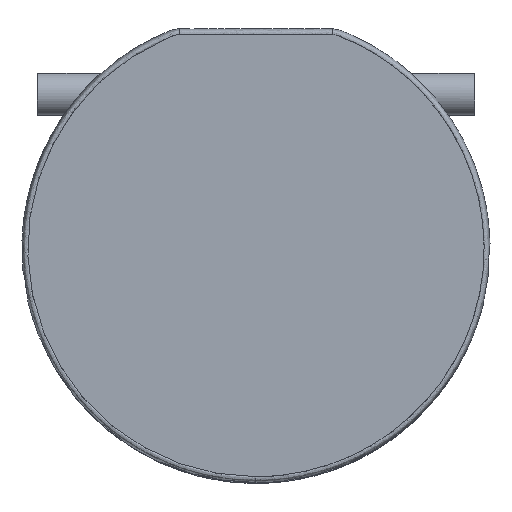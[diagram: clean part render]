
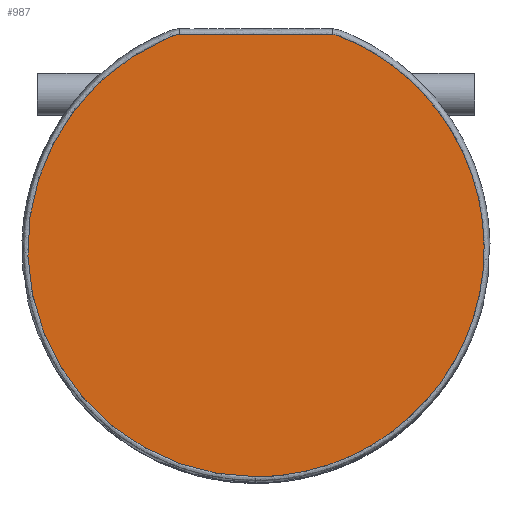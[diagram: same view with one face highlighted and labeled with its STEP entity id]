
A CAD part, top view. The second image highlights one B-rep face of the part: STEP entity #987.
In plain terms, the highlighted planar face has unit normal (0, 0, 1).
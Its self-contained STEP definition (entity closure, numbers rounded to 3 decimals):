
#987=ADVANCED_FACE('',(#1494),#7293,.T.);
#1494=FACE_OUTER_BOUND('',#2001,.T.);
#2001=EDGE_LOOP('',(#2528,#2529,#2530));
#2528=ORIENTED_EDGE('',*,*,#4860,.F.);
#2529=ORIENTED_EDGE('',*,*,#4862,.F.);
#2530=ORIENTED_EDGE('',*,*,#4856,.F.);
#4856=EDGE_CURVE('',#6541,#6544,#6025,.T.);
#4860=EDGE_CURVE('',#6546,#6541,#6029,.T.);
#4862=EDGE_CURVE('',#6544,#6546,#6031,.T.);
#6025=B_SPLINE_CURVE_WITH_KNOTS('',3,(#10188,#10189,#10190,#10191,#10192,
#10193,#10194,#10195,#10196,#10197,#10198,#10199,#10200,#10201,#10202,#10203,
#10204,#10205,#10206,#10207,#10208,#10209,#10210,#10211,#10212,#10213,#10214,
#10215,#10216,#10217,#10218,#10219,#10220,#10221,#10222),.UNSPECIFIED.,
 .F.,.F.,(4,1,1,1,1,1,1,1,1,1,1,1,1,1,1,1,1,1,1,1,1,1,1,1,1,1,1,1,1,1,1,
1,4),(-456.472,-455.787,-455.102,-454.416,
-453.729,-453.048,-452.963,-452.878,
-451.771,-450.663,-448.477,-446.291,
-428.095,-409.421,-390.768,-371.873,
-352.86,-333.858,-314.994,-296.393,
-277.79,-259.682,-238.583,-215.542,-191.57,
-166.883,-141.742,-116.436,-90.748,
-65.516,-41.51,-18.427,0.),.UNSPECIFIED.);
#6029=B_SPLINE_CURVE_WITH_KNOTS('',3,(#10293,#10294,#10295,#10296),
 .UNSPECIFIED.,.F.,.F.,(4,4),(-108.812,0.),.UNSPECIFIED.);
#6031=B_SPLINE_CURVE_WITH_KNOTS('',3,(#10328,#10329,#10330,#10331,#10332,
#10333,#10334,#10335,#10336,#10337,#10338,#10339,#10340,#10341,#10342,#10343,
#10344,#10345,#10346,#10347,#10348,#10349,#10350,#10351,#10352,#10353,#10354,
#10355,#10356,#10357,#10358),.UNSPECIFIED.,.F.,.F.,(4,1,1,1,1,1,1,1,1,1,
1,1,1,1,1,1,1,1,1,1,1,1,1,1,1,1,1,1,4),(-456.44,-434.254,
-411.005,-386.866,-362.063,-336.864,-311.564,
-286.465,-261.856,-237.992,-215.082,
-194.602,-176.805,-158.542,-139.914,
-121.034,-102.026,-83.018,-64.138,
-45.51,-27.247,-9.45,-5.083,
-3.621,-3.579,-3.409,-2.729,
-1.362,0.),.UNSPECIFIED.);
#6541=VERTEX_POINT('',#10114);
#6544=VERTEX_POINT('',#10117);
#6546=VERTEX_POINT('',#10119);
#7293=PLANE('',#7473);
#7473=AXIS2_PLACEMENT_3D('',#7802,#7637,$);
#7637=DIRECTION('',(0.,0.,1.));
#7802=CARTESIAN_POINT('',(-1075.108,-289.711,798.351));
#10114=CARTESIAN_POINT('',(-1185.63,26.579,798.351));
#10117=CARTESIAN_POINT('',(-1240.052,-286.579,798.351));
#10119=CARTESIAN_POINT('',(-1294.442,26.579,798.351));
#10188=CARTESIAN_POINT('',(-1185.63,26.579,798.351));
#10189=CARTESIAN_POINT('',(-1185.434,26.579,798.351));
#10190=CARTESIAN_POINT('',(-1185.043,26.566,798.351));
#10191=CARTESIAN_POINT('',(-1184.457,26.505,798.351));
#10192=CARTESIAN_POINT('',(-1183.877,26.405,798.351));
#10193=CARTESIAN_POINT('',(-1183.306,26.265,798.351));
#10194=CARTESIAN_POINT('',(-1182.91,26.139,798.351));
#10195=CARTESIAN_POINT('',(-1182.682,26.057,798.351));
#10196=CARTESIAN_POINT('',(-1182.31,25.916,798.351));
#10197=CARTESIAN_POINT('',(-1181.589,25.639,798.351));
#10198=CARTESIAN_POINT('',(-1180.24,25.11,798.351));
#10199=CARTESIAN_POINT('',(-1178.56,24.432,798.351));
#10200=CARTESIAN_POINT('',(-1171.682,21.549,798.351));
#10201=CARTESIAN_POINT('',(-1160.098,15.816,798.351));
#10202=CARTESIAN_POINT('',(-1144.653,5.859,798.351));
#10203=CARTESIAN_POINT('',(-1130.267,-5.944,798.351));
#10204=CARTESIAN_POINT('',(-1117.255,-19.403,798.351));
#10205=CARTESIAN_POINT('',(-1105.822,-34.374,798.351));
#10206=CARTESIAN_POINT('',(-1096.214,-50.563,798.351));
#10207=CARTESIAN_POINT('',(-1088.603,-67.633,798.351));
#10208=CARTESIAN_POINT('',(-1083.039,-85.335,798.351));
#10209=CARTESIAN_POINT('',(-1079.574,-103.312,798.351));
#10210=CARTESIAN_POINT('',(-1078.087,-122.384,798.351));
#10211=CARTESIAN_POINT('',(-1078.962,-142.979,798.351));
#10212=CARTESIAN_POINT('',(-1082.954,-165.183,798.351));
#10213=CARTESIAN_POINT('',(-1090.474,-187.719,798.351));
#10214=CARTESIAN_POINT('',(-1101.579,-209.508,798.351));
#10215=CARTESIAN_POINT('',(-1116.131,-229.712,798.351));
#10216=CARTESIAN_POINT('',(-1133.858,-247.67,798.351));
#10217=CARTESIAN_POINT('',(-1154.192,-262.666,798.351));
#10218=CARTESIAN_POINT('',(-1176.226,-274.116,798.351));
#10219=CARTESIAN_POINT('',(-1198.91,-281.84,798.351));
#10220=CARTESIAN_POINT('',(-1220.245,-285.805,798.351));
#10221=CARTESIAN_POINT('',(-1233.964,-286.58,798.351));
#10222=CARTESIAN_POINT('',(-1240.052,-286.579,798.351));
#10293=CARTESIAN_POINT('',(-1294.442,26.579,798.351));
#10294=CARTESIAN_POINT('',(-1258.171,26.579,798.351));
#10295=CARTESIAN_POINT('',(-1221.9,26.579,798.351));
#10296=CARTESIAN_POINT('',(-1185.63,26.579,798.351));
#10328=CARTESIAN_POINT('',(-1240.052,-286.579,798.351));
#10329=CARTESIAN_POINT('',(-1247.383,-286.579,798.351));
#10330=CARTESIAN_POINT('',(-1262.395,-285.554,798.351));
#10331=CARTESIAN_POINT('',(-1284.949,-280.805,798.351));
#10332=CARTESIAN_POINT('',(-1307.394,-272.538,798.351));
#10333=CARTESIAN_POINT('',(-1328.92,-260.694,798.351));
#10334=CARTESIAN_POINT('',(-1348.69,-245.464,798.351));
#10335=CARTESIAN_POINT('',(-1365.942,-227.295,798.351));
#10336=CARTESIAN_POINT('',(-1380.079,-206.847,798.351));
#10337=CARTESIAN_POINT('',(-1390.736,-184.921,798.351));
#10338=CARTESIAN_POINT('',(-1397.809,-162.352,798.351));
#10339=CARTESIAN_POINT('',(-1401.364,-140.361,798.351));
#10340=CARTESIAN_POINT('',(-1401.913,-120.11,798.351));
#10341=CARTESIAN_POINT('',(-1400.227,-101.476,798.351));
#10342=CARTESIAN_POINT('',(-1396.616,-83.741,798.351));
#10343=CARTESIAN_POINT('',(-1390.914,-66.186,798.351));
#10344=CARTESIAN_POINT('',(-1383.131,-49.175,798.351));
#10345=CARTESIAN_POINT('',(-1373.363,-33.074,798.351));
#10346=CARTESIAN_POINT('',(-1361.788,-18.22,798.351));
#10347=CARTESIAN_POINT('',(-1348.657,-4.897,798.351));
#10348=CARTESIAN_POINT('',(-1334.277,6.674,798.351));
#10349=CARTESIAN_POINT('',(-1318.985,16.356,798.351));
#10350=CARTESIAN_POINT('',(-1306.96,22.221,798.351));
#10351=CARTESIAN_POINT('',(-1299.73,25.158,798.351));
#10352=CARTESIAN_POINT('',(-1297.913,25.859,798.351));
#10353=CARTESIAN_POINT('',(-1297.411,26.049,798.351));
#10354=CARTESIAN_POINT('',(-1297.174,26.135,798.351));
#10355=CARTESIAN_POINT('',(-1296.568,26.328,798.351));
#10356=CARTESIAN_POINT('',(-1295.612,26.526,798.351));
#10357=CARTESIAN_POINT('',(-1294.831,26.579,798.351));
#10358=CARTESIAN_POINT('',(-1294.442,26.579,798.351));
